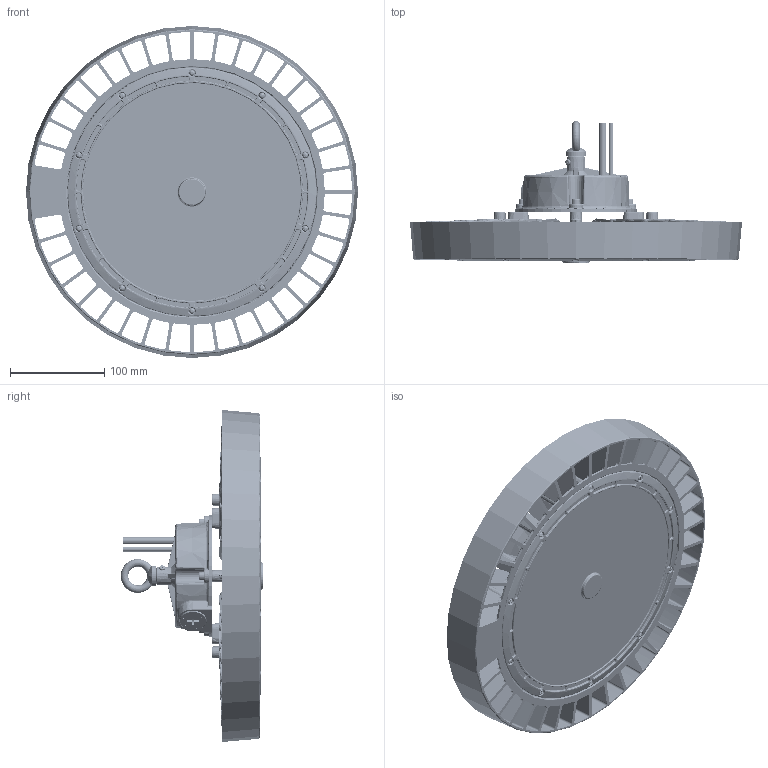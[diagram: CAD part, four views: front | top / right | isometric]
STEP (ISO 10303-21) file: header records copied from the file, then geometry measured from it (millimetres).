
FILE_DESCRIPTION((''),'2;1');
FILE_NAME('UFO-200N_ASM_4_ASM','2026-05-05T16:50:11',('Administrator'),(''),'CREO PARAMETRIC BY PTC INC, 2024063','CREO PARAMETRIC BY PTC INC, 2024063','');
FILE_SCHEMA(('CONFIG_CONTROL_DESIGN'));
Products named in the file (293): UFO-200N_1; M5X1_HXQ_2; PG7-12_7; DK-265-120-LENS-J-NN1_1_1; DK265-GGX-GJQ_1_1; DK265-GGX-PCB_5_2_1; DK265-GGX-PCB_5_2_2; DK265-GGX-PCB_5_2_3; DK265-GGX-PCB_5_2_4; DK265-GGX-PCB_5_2_5; DK265-GGX-PCB_5_2_6; DK265-GGX-PCB_5_2_7; DK265-GGX-PCB_5_2_8; DK265-GGX-PCB_5_2_9; DK265-GGX-PCB_5_2_10; DK265-GGX-PCB_5_2_11; DK265-GGX-PCB_5_2_12; DK265-GGX-PCB_5_2_13; DK265-GGX-PCB_5_2_14; DK265-GGX-PCB_5_2_15; DK265-GGX-PCB_5_2_16; DK265-GGX-PCB_5_2_17; DK265-GGX-PCB_5_2_18; DK265-GGX-PCB_5_2_19; DK265-GGX-PCB_5_2_20; DK265-GGX-PCB_5_2_21; DK265-GGX-PCB_5_2_22; DK265-GGX-PCB_5_2_23; DK265-GGX-PCB_5_2_24; DK265-GGX-PCB_5_2_25; DK265-GGX-PCB_5_2_26; DK265-GGX-PCB_5_2_27; DK265-GGX-PCB_5_2_28; DK265-GGX-PCB_5_2_29; DK265-GGX-PCB_5_2_30; DK265-GGX-PCB_5_2_31; DK265-GGX-PCB_5_2_32; DK265-GGX-PCB_5_2_33; DK265-GGX-PCB_5_2_34; DK265-GGX-PCB_5_2_35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
Assembly tree (311 placements, depth 5):
  UFO-200N_ASM_4_ASM
    UFO-200N_1
    M5X1_HXQ_2
    PG7-12_7
    DK265-GGX_ASM_ASM_1_ASM
      DK-265-120-LENS-J-NN1_ASM_12_AS_ASM
        DK-265-120-LENS-J-NN1_1_1
        DK265-GGX-GJQ_1_1
        DK265-GGX-PCB_5_2_ASM
          DK265-GGX-PCB_5_2_1
          DK265-GGX-PCB_5_2_2
          DK265-GGX-PCB_5_2_3
          DK265-GGX-PCB_5_2_4
          DK265-GGX-PCB_5_2_5
          DK265-GGX-PCB_5_2_6
          DK265-GGX-PCB_5_2_7
          DK265-GGX-PCB_5_2_8
          DK265-GGX-PCB_5_2_9
          DK265-GGX-PCB_5_2_10
          DK265-GGX-PCB_5_2_11
          DK265-GGX-PCB_5_2_12
          DK265-GGX-PCB_5_2_13
          DK265-GGX-PCB_5_2_14
          DK265-GGX-PCB_5_2_15
          DK265-GGX-PCB_5_2_16
          DK265-GGX-PCB_5_2_17
          DK265-GGX-PCB_5_2_18
          DK265-GGX-PCB_5_2_19
          DK265-GGX-PCB_5_2_20
          DK265-GGX-PCB_5_2_21
          DK265-GGX-PCB_5_2_22
          DK265-GGX-PCB_5_2_23
          DK265-GGX-PCB_5_2_24
          DK265-GGX-PCB_5_2_25
          DK265-GGX-PCB_5_2_26
          DK265-GGX-PCB_5_2_27
          DK265-GGX-PCB_5_2_28
          DK265-GGX-PCB_5_2_29
          DK265-GGX-PCB_5_2_30
          DK265-GGX-PCB_5_2_31
          DK265-GGX-PCB_5_2_32
          DK265-GGX-PCB_5_2_33
          DK265-GGX-PCB_5_2_34
          DK265-GGX-PCB_5_2_35
          DK265-GGX-PCB_5_2_36
          DK265-GGX-PCB_5_2_37
          DK265-GGX-PCB_5_2_38
          DK265-GGX-PCB_5_2_39
          DK265-GGX-PCB_5_2_40
          DK265-GGX-PCB_5_2_41
          DK265-GGX-PCB_5_2_42
          DK265-GGX-PCB_5_2_43
          DK265-GGX-PCB_5_2_44
          DK265-GGX-PCB_5_2_45
          DK265-GGX-PCB_5_2_46
          DK265-GGX-PCB_5_2_47
          DK265-GGX-PCB_5_2_48
          DK265-GGX-PCB_5_2_49
          DK265-GGX-PCB_5_2_50
          DK265-GGX-PCB_5_2_51
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Bounding box: 353 x 151.5 x 353 mm (x, y, z)
Volume: 1033308.8 mm3; surface area: 867660.7 mm2
Topology: 312 solids, 315 shells, 8281 faces, 20071 edges, 12275 vertices
Faces by surface type: plane 2982, cylinder 1767, bspline 1332, torus 1055, cone 843, sphere 237, extrusion 61, revolution 4
Entity records: 395886 total; most frequent: CARTESIAN_POINT 224862, ORIENTED_EDGE 35476, DIRECTION 33553, EDGE_CURVE 17747, AXIS2_PLACEMENT_3D 13051, VERTEX_POINT 10944, EDGE_LOOP 7785, FACE_OUTER_BOUND 7500
